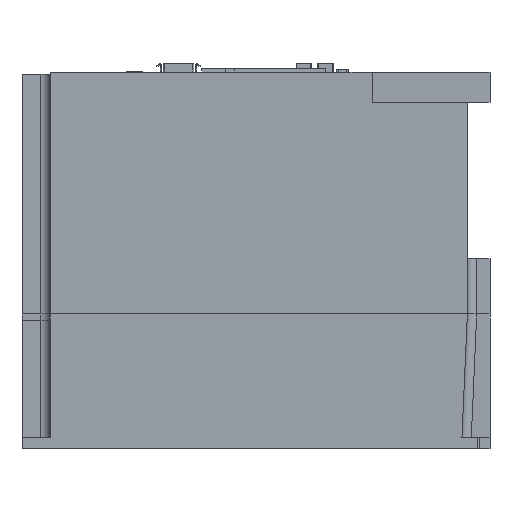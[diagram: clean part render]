
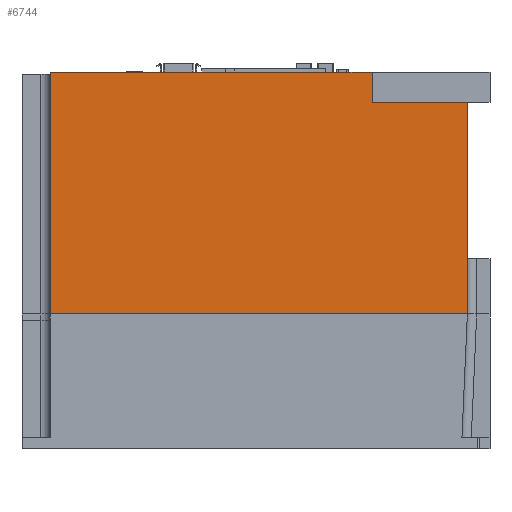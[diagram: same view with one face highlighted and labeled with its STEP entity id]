
A CAD part, left-side view. The second image highlights one B-rep face of the part: STEP entity #6744.
In plain terms, the highlighted planar face has unit normal (-1, 0, 0).
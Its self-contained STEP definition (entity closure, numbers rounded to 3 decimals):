
#2892=DIRECTION('',(0.,-1.,0.));
#2893=VECTOR('',#2892,223.);
#2894=CARTESIAN_POINT('',(-65.,110.,0.));
#2895=LINE('',#2894,#2893);
#3409=DIRECTION('',(0.,-1.,0.));
#3410=VECTOR('',#3409,172.);
#3411=CARTESIAN_POINT('',(-65.,110.,129.2));
#3412=LINE('',#3411,#3410);
#3472=DIRECTION('',(0.,0.,1.));
#3473=VECTOR('',#3472,129.2);
#3474=CARTESIAN_POINT('',(-65.,110.,0.));
#3475=LINE('',#3474,#3473);
#3476=DIRECTION('',(0.,0.,-1.));
#3477=VECTOR('',#3476,16.2);
#3478=CARTESIAN_POINT('',(-65.,-62.,129.2));
#3479=LINE('',#3478,#3477);
#3480=DIRECTION('',(0.,1.,0.));
#3481=VECTOR('',#3480,51.);
#3482=CARTESIAN_POINT('',(-65.,-113.,113.));
#3483=LINE('',#3482,#3481);
#4842=DIRECTION('',(0.,0.,1.));
#4843=VECTOR('',#4842,113.);
#4844=CARTESIAN_POINT('',(-65.,-113.,0.));
#4845=LINE('',#4844,#4843);
#5353=CARTESIAN_POINT('',(-65.,110.,0.));
#5354=VERTEX_POINT('',#5353);
#5355=CARTESIAN_POINT('',(-65.,-113.,0.));
#5356=VERTEX_POINT('',#5355);
#5439=CARTESIAN_POINT('',(-65.,-113.,113.));
#5440=CARTESIAN_POINT('',(-65.,-62.,113.));
#5441=VERTEX_POINT('',#5439);
#5442=VERTEX_POINT('',#5440);
#5957=CARTESIAN_POINT('',(-65.,-62.,129.2));
#5959=VERTEX_POINT('',#5957);
#5975=CARTESIAN_POINT('',(-65.,110.,129.2));
#5976=VERTEX_POINT('',#5975);
#6728=CARTESIAN_POINT('',(-65.,110.,0.));
#6729=DIRECTION('',(-1.,0.,0.));
#6730=DIRECTION('',(0.,-1.,0.));
#6731=AXIS2_PLACEMENT_3D('',#6728,#6729,#6730);
#6732=PLANE('',#6731);
#6734=ORIENTED_EDGE('',*,*,#6733,.T.);
#6735=ORIENTED_EDGE('',*,*,#6687,.T.);
#6736=ORIENTED_EDGE('',*,*,#6527,.T.);
#6738=ORIENTED_EDGE('',*,*,#6737,.F.);
#6740=ORIENTED_EDGE('',*,*,#6739,.F.);
#6741=ORIENTED_EDGE('',*,*,#6176,.F.);
#6742=EDGE_LOOP('',(#6734,#6735,#6736,#6738,#6740,#6741));
#6743=FACE_OUTER_BOUND('',#6742,.F.);
#6744=ADVANCED_FACE('',(#6743),#6732,.T.);
#6176=EDGE_CURVE('',#5354,#5356,#2895,.T.);
#6527=EDGE_CURVE('',#5959,#5442,#3479,.T.);
#6687=EDGE_CURVE('',#5976,#5959,#3412,.T.);
#6733=EDGE_CURVE('',#5354,#5976,#3475,.T.);
#6737=EDGE_CURVE('',#5441,#5442,#3483,.T.);
#6739=EDGE_CURVE('',#5356,#5441,#4845,.T.);
